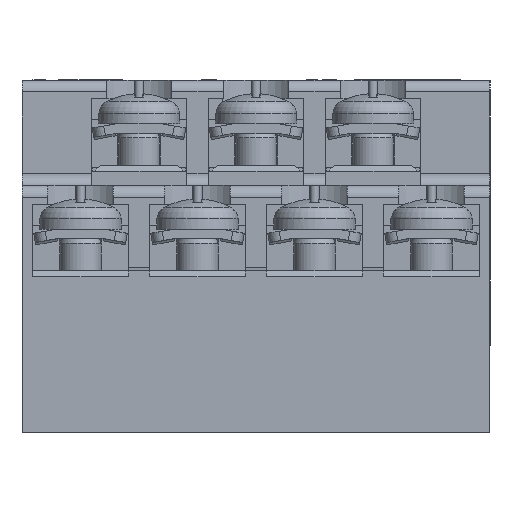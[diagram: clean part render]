
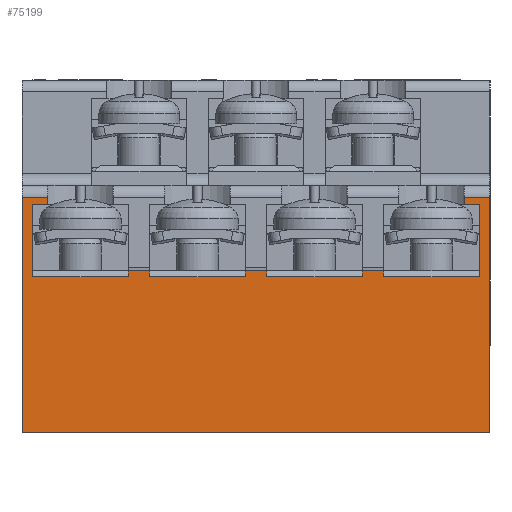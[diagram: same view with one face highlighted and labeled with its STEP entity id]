
A CAD part, left-side view. The second image highlights one B-rep face of the part: STEP entity #75199.
In plain terms, the highlighted planar face has unit normal (-1, 0, 0).
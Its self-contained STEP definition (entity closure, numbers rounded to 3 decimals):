
#3313=PLANE('',#79846);
#5431=LINE('',#100107,#13484);
#5566=LINE('',#100379,#13619);
#5621=LINE('',#100514,#13674);
#6456=LINE('',#102709,#14509);
#10104=LINE('',#117710,#18157);
#10131=LINE('',#117797,#18184);
#10134=LINE('',#117803,#18187);
#11386=LINE('',#121377,#19439);
#11441=LINE('',#121540,#19494);
#11443=LINE('',#121577,#19496);
#11649=LINE('',#122019,#19702);
#11650=LINE('',#122021,#19703);
#11651=LINE('',#122023,#19704);
#11652=LINE('',#122025,#19705);
#11653=LINE('',#122027,#19706);
#11654=LINE('',#122029,#19707);
#11655=LINE('',#122031,#19708);
#11656=LINE('',#122033,#19709);
#11657=LINE('',#122035,#19710);
#11658=LINE('',#122037,#19711);
#11659=LINE('',#122039,#19712);
#11660=LINE('',#122041,#19713);
#11661=LINE('',#122043,#19714);
#11662=LINE('',#122044,#19715);
#13484=VECTOR('',#81636,6.2);
#13619=VECTOR('',#81827,20.1);
#13674=VECTOR('',#81908,20.1);
#14509=VECTOR('',#83171,6.2);
#18157=VECTOR('',#91657,2.2);
#18184=VECTOR('',#91752,2.2);
#18187=VECTOR('',#91757,0.6);
#19439=VECTOR('',#94449,0.6);
#19494=VECTOR('',#94642,1.3);
#19496=VECTOR('',#94714,1.3);
#19702=VECTOR('',#95292,40.);
#19703=VECTOR('',#95293,8.2);
#19704=VECTOR('',#95294,0.5);
#19705=VECTOR('',#95295,1.8);
#19706=VECTOR('',#95296,0.5);
#19707=VECTOR('',#95297,8.2);
#19708=VECTOR('',#95298,0.5);
#19709=VECTOR('',#95299,1.8);
#19710=VECTOR('',#95300,0.5);
#19711=VECTOR('',#95301,8.2);
#19712=VECTOR('',#95302,0.5);
#19713=VECTOR('',#95303,1.8);
#19714=VECTOR('',#95304,0.5);
#19715=VECTOR('',#95305,8.2);
#24323=FACE_OUTER_BOUND('',#28316,.T.);
#28316=EDGE_LOOP('',(#64428,#64429,#64430,#64431,#64432,#64433,#64434,#64435,
#64436,#64437,#64438,#64439,#64440,#64441,#64442,#64443,#64444,#64445,#64446,
#64447,#64448,#64449,#64450,#64451));
#30987=VERTEX_POINT('',#100104);
#30988=VERTEX_POINT('',#100106);
#31096=VERTEX_POINT('',#100376);
#31097=VERTEX_POINT('',#100378);
#31163=VERTEX_POINT('',#100511);
#31164=VERTEX_POINT('',#100513);
#31991=VERTEX_POINT('',#102706);
#31992=VERTEX_POINT('',#102708);
#35265=VERTEX_POINT('',#117709);
#35291=VERTEX_POINT('',#117795);
#35293=VERTEX_POINT('',#117801);
#36039=VERTEX_POINT('',#121376);
#36129=VERTEX_POINT('',#122020);
#36130=VERTEX_POINT('',#122022);
#36131=VERTEX_POINT('',#122024);
#36132=VERTEX_POINT('',#122026);
#36133=VERTEX_POINT('',#122028);
#36134=VERTEX_POINT('',#122030);
#36135=VERTEX_POINT('',#122032);
#36136=VERTEX_POINT('',#122034);
#36137=VERTEX_POINT('',#122036);
#36138=VERTEX_POINT('',#122038);
#36139=VERTEX_POINT('',#122040);
#36140=VERTEX_POINT('',#122042);
#37775=EDGE_CURVE('',#30988,#30987,#5431,.T.);
#37911=EDGE_CURVE('',#31096,#31097,#5566,.T.);
#37978=EDGE_CURVE('',#31164,#31163,#5621,.T.);
#38956=EDGE_CURVE('',#31992,#31991,#6456,.T.);
#44053=EDGE_CURVE('',#31097,#35265,#10104,.T.);
#44096=EDGE_CURVE('',#35291,#31163,#10131,.T.);
#44099=EDGE_CURVE('',#35291,#35293,#10134,.T.);
#45506=EDGE_CURVE('',#36039,#35265,#11386,.T.);
#45592=EDGE_CURVE('',#30987,#36039,#11441,.T.);
#45605=EDGE_CURVE('',#35293,#31992,#11443,.T.);
#45822=EDGE_CURVE('',#31096,#31164,#11649,.T.);
#45823=EDGE_CURVE('',#31991,#36129,#11650,.T.);
#45824=EDGE_CURVE('',#36129,#36130,#11651,.T.);
#45825=EDGE_CURVE('',#36131,#36130,#11652,.T.);
#45826=EDGE_CURVE('',#36131,#36132,#11653,.T.);
#45827=EDGE_CURVE('',#36132,#36133,#11654,.T.);
#45828=EDGE_CURVE('',#36133,#36134,#11655,.T.);
#45829=EDGE_CURVE('',#36135,#36134,#11656,.T.);
#45830=EDGE_CURVE('',#36135,#36136,#11657,.T.);
#45831=EDGE_CURVE('',#36136,#36137,#11658,.T.);
#45832=EDGE_CURVE('',#36137,#36138,#11659,.T.);
#45833=EDGE_CURVE('',#36139,#36138,#11660,.T.);
#45834=EDGE_CURVE('',#36139,#36140,#11661,.T.);
#45835=EDGE_CURVE('',#36140,#30988,#11662,.T.);
#64428=ORIENTED_EDGE('',*,*,#37775,.T.);
#64429=ORIENTED_EDGE('',*,*,#45592,.T.);
#64430=ORIENTED_EDGE('',*,*,#45506,.T.);
#64431=ORIENTED_EDGE('',*,*,#44053,.F.);
#64432=ORIENTED_EDGE('',*,*,#37911,.F.);
#64433=ORIENTED_EDGE('',*,*,#45822,.T.);
#64434=ORIENTED_EDGE('',*,*,#37978,.T.);
#64435=ORIENTED_EDGE('',*,*,#44096,.F.);
#64436=ORIENTED_EDGE('',*,*,#44099,.T.);
#64437=ORIENTED_EDGE('',*,*,#45605,.T.);
#64438=ORIENTED_EDGE('',*,*,#38956,.T.);
#64439=ORIENTED_EDGE('',*,*,#45823,.T.);
#64440=ORIENTED_EDGE('',*,*,#45824,.T.);
#64441=ORIENTED_EDGE('',*,*,#45825,.F.);
#64442=ORIENTED_EDGE('',*,*,#45826,.T.);
#64443=ORIENTED_EDGE('',*,*,#45827,.T.);
#64444=ORIENTED_EDGE('',*,*,#45828,.T.);
#64445=ORIENTED_EDGE('',*,*,#45829,.F.);
#64446=ORIENTED_EDGE('',*,*,#45830,.T.);
#64447=ORIENTED_EDGE('',*,*,#45831,.T.);
#64448=ORIENTED_EDGE('',*,*,#45832,.T.);
#64449=ORIENTED_EDGE('',*,*,#45833,.F.);
#64450=ORIENTED_EDGE('',*,*,#45834,.T.);
#64451=ORIENTED_EDGE('',*,*,#45835,.T.);
#75199=ADVANCED_FACE('',(#24323),#3313,.T.);
#79846=AXIS2_PLACEMENT_3D('',#122018,#95290,#95291);
#81636=DIRECTION('',(0.,0.,1.));
#81827=DIRECTION('',(0.,0.,1.));
#81908=DIRECTION('',(0.,0.,1.));
#83171=DIRECTION('',(0.,0.,-1.));
#91657=DIRECTION('',(0.,-1.,0.));
#91752=DIRECTION('',(0.,-1.,0.));
#91757=DIRECTION('',(0.,0.,-1.));
#94449=DIRECTION('',(0.,0.,1.));
#94642=DIRECTION('',(0.,-1.,0.));
#94714=DIRECTION('',(0.,-1.,0.));
#95290=DIRECTION('center_axis',(-1.,0.,0.));
#95291=DIRECTION('ref_axis',(0.,0.,1.));
#95292=DIRECTION('',(0.,-1.,0.));
#95293=DIRECTION('',(0.,1.,0.));
#95294=DIRECTION('',(0.,0.,1.));
#95295=DIRECTION('',(0.,-1.,0.));
#95296=DIRECTION('',(0.,0.,-1.));
#95297=DIRECTION('',(0.,1.,0.));
#95298=DIRECTION('',(0.,0.,1.));
#95299=DIRECTION('',(0.,-1.,0.));
#95300=DIRECTION('',(0.,0.,-1.));
#95301=DIRECTION('',(0.,1.,0.));
#95302=DIRECTION('',(0.,0.,1.));
#95303=DIRECTION('',(0.,-1.,0.));
#95304=DIRECTION('',(0.,0.,-1.));
#95305=DIRECTION('',(0.,1.,0.));
#100104=CARTESIAN_POINT('',(-43.5,19.1,10.2));
#100106=CARTESIAN_POINT('',(-43.5,19.1,4.));
#100107=CARTESIAN_POINT('',(-43.5,19.1,4.));
#100376=CARTESIAN_POINT('',(-43.5,20.,-9.3));
#100378=CARTESIAN_POINT('',(-43.5,20.,10.8));
#100379=CARTESIAN_POINT('',(-43.5,20.,-9.3));
#100511=CARTESIAN_POINT('',(-43.5,-20.,10.8));
#100513=CARTESIAN_POINT('',(-43.5,-20.,-9.3));
#100514=CARTESIAN_POINT('',(-43.5,-20.,-9.3));
#102706=CARTESIAN_POINT('',(-43.5,-19.1,4.));
#102708=CARTESIAN_POINT('',(-43.5,-19.1,10.2));
#102709=CARTESIAN_POINT('',(-43.5,-19.1,10.2));
#117709=CARTESIAN_POINT('',(-43.5,17.8,10.8));
#117710=CARTESIAN_POINT('',(-43.5,20.,10.8));
#117795=CARTESIAN_POINT('',(-43.5,-17.8,10.8));
#117797=CARTESIAN_POINT('',(-43.5,-17.8,10.8));
#117801=CARTESIAN_POINT('',(-43.5,-17.8,10.2));
#117803=CARTESIAN_POINT('',(-43.5,-17.8,10.8));
#121376=CARTESIAN_POINT('',(-43.5,17.8,10.2));
#121377=CARTESIAN_POINT('',(-43.5,17.8,10.2));
#121540=CARTESIAN_POINT('',(-43.5,19.1,10.2));
#121577=CARTESIAN_POINT('',(-43.5,-17.8,10.2));
#122018=CARTESIAN_POINT('Origin',(-43.5,-20.,0.));
#122019=CARTESIAN_POINT('',(-43.5,20.,-9.3));
#122020=CARTESIAN_POINT('',(-43.5,-10.9,4.));
#122021=CARTESIAN_POINT('',(-43.5,-19.1,4.));
#122022=CARTESIAN_POINT('',(-43.5,-10.9,4.5));
#122023=CARTESIAN_POINT('',(-43.5,-10.9,4.));
#122024=CARTESIAN_POINT('',(-43.5,-9.1,4.5));
#122025=CARTESIAN_POINT('',(-43.5,-9.1,4.5));
#122026=CARTESIAN_POINT('',(-43.5,-9.1,4.));
#122027=CARTESIAN_POINT('',(-43.5,-9.1,4.5));
#122028=CARTESIAN_POINT('',(-43.5,-0.9,4.));
#122029=CARTESIAN_POINT('',(-43.5,-9.1,4.));
#122030=CARTESIAN_POINT('',(-43.5,-0.9,4.5));
#122031=CARTESIAN_POINT('',(-43.5,-0.9,4.));
#122032=CARTESIAN_POINT('',(-43.5,0.9,4.5));
#122033=CARTESIAN_POINT('',(-43.5,0.9,4.5));
#122034=CARTESIAN_POINT('',(-43.5,0.9,4.));
#122035=CARTESIAN_POINT('',(-43.5,0.9,4.5));
#122036=CARTESIAN_POINT('',(-43.5,9.1,4.));
#122037=CARTESIAN_POINT('',(-43.5,0.9,4.));
#122038=CARTESIAN_POINT('',(-43.5,9.1,4.5));
#122039=CARTESIAN_POINT('',(-43.5,9.1,4.));
#122040=CARTESIAN_POINT('',(-43.5,10.9,4.5));
#122041=CARTESIAN_POINT('',(-43.5,10.9,4.5));
#122042=CARTESIAN_POINT('',(-43.5,10.9,4.));
#122043=CARTESIAN_POINT('',(-43.5,10.9,4.5));
#122044=CARTESIAN_POINT('',(-43.5,10.9,4.));
